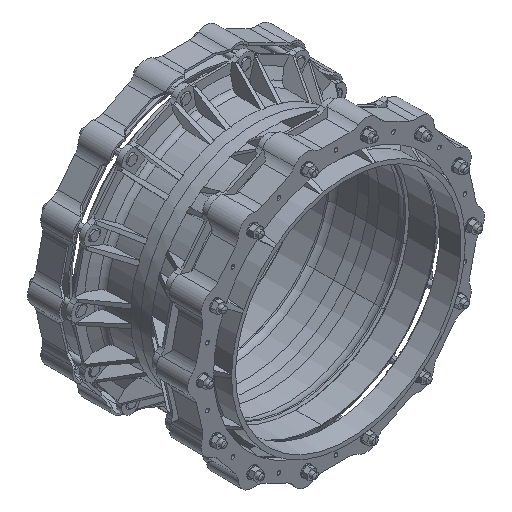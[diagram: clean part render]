
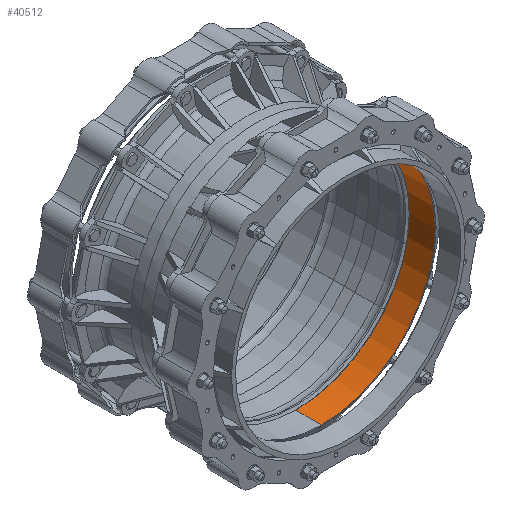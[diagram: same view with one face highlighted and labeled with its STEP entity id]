
A CAD part, isometric view. The second image highlights one B-rep face of the part: STEP entity #40512.
In plain terms, the highlighted cylindrical face has radius 372 mm (diameter 744 mm), a partial arc.
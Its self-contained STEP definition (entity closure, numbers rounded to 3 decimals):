
#40336=CARTESIAN_POINT('',(0.,-42.5,0.));
#40337=DIRECTION('',(0.,-1.,0.));
#40338=DIRECTION('',(0.,0.,-1.));
#40339=AXIS2_PLACEMENT_3D('',#40336,#40337,#40338);
#40346=DIRECTION('',(0.,-1.,0.));
#40347=VECTOR('',#40346,85.);
#40348=CARTESIAN_POINT('',(0.,42.5,-372.));
#40349=LINE('',#40348,#40347);
#40350=CARTESIAN_POINT('',(0.,42.5,0.));
#40351=DIRECTION('',(0.,-1.,0.));
#40352=DIRECTION('',(0.,0.,-1.));
#40353=AXIS2_PLACEMENT_3D('',#40350,#40351,#40352);
#40355=DIRECTION('',(0.,-1.,0.));
#40356=VECTOR('',#40355,85.);
#40357=CARTESIAN_POINT('',(0.,42.5,372.));
#40358=LINE('',#40357,#40356);
#40393=CARTESIAN_POINT('',(0.,42.5,-372.));
#40394=CARTESIAN_POINT('',(0.,-42.5,-372.));
#40395=VERTEX_POINT('',#40393);
#40396=VERTEX_POINT('',#40394);
#40403=CARTESIAN_POINT('',(0.,42.5,372.));
#40404=CARTESIAN_POINT('',(0.,-42.5,372.));
#40405=VERTEX_POINT('',#40403);
#40406=VERTEX_POINT('',#40404);
#40500=CARTESIAN_POINT('',(0.,-46.75,0.));
#40501=DIRECTION('',(0.,1.,0.));
#40502=DIRECTION('',(0.,0.,-1.));
#40503=AXIS2_PLACEMENT_3D('',#40500,#40501,#40502);
#40504=CYLINDRICAL_SURFACE('',#40503,372.);
#40505=ORIENTED_EDGE('',*,*,#40490,.F.);
#40507=ORIENTED_EDGE('',*,*,#40506,.T.);
#40508=ORIENTED_EDGE('',*,*,#40493,.T.);
#40509=ORIENTED_EDGE('',*,*,#40480,.F.);
#40510=EDGE_LOOP('',(#40505,#40507,#40508,#40509));
#40511=FACE_OUTER_BOUND('',#40510,.F.);
#40512=ADVANCED_FACE('',(#40511),#40504,.F.);
#40340=CIRCLE('',#40339,372.);
#40354=CIRCLE('',#40353,372.);
#40480=EDGE_CURVE('',#40396,#40406,#40340,.T.);
#40490=EDGE_CURVE('',#40395,#40396,#40349,.T.);
#40493=EDGE_CURVE('',#40405,#40406,#40358,.T.);
#40506=EDGE_CURVE('',#40395,#40405,#40354,.T.);
